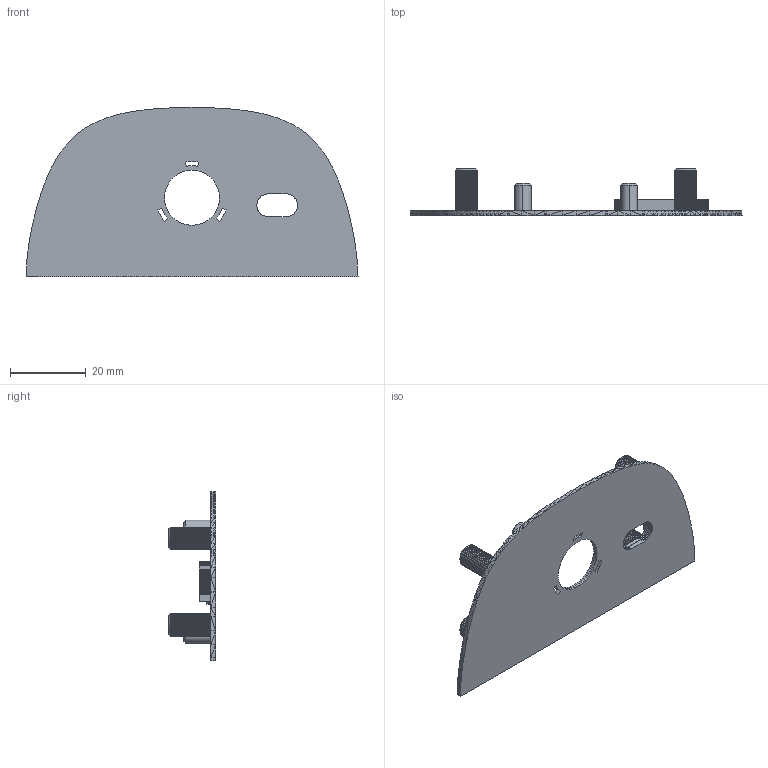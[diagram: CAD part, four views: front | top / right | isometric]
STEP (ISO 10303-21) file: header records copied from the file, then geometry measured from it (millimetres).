
FILE_DESCRIPTION (( 'STEP AP203' ), '1' );
FILE_NAME ('face_part_面部零件-FT.STEP', '2026-09-19T12:43:09', ( '' ), ( '' ), 'SwSTEP 2.0', 'SolidWorks 2021', '' );
FILE_SCHEMA (( 'CONFIG_CONTROL_DESIGN' ));
Products named in the file (1): face_part_醱窒錨璃-FT
Bounding box: 87.65 x 12.5 x 44.63 mm (x, y, z)
Volume: 5781 mm3; surface area: 8471.3 mm2
Topology: 1 solids, 1 shells, 2373 faces, 5976 edges, 3634 vertices
Faces by surface type: plane 2341, cylinder 24, cone 8
Entity records: 68303 total; most frequent: CARTESIAN_POINT 11984, ORIENTED_EDGE 11952, DIRECTION 10780, EDGE_CURVE 5976, LINE 5920, VECTOR 5920, VERTEX_POINT 3634, AXIS2_PLACEMENT_3D 2430
